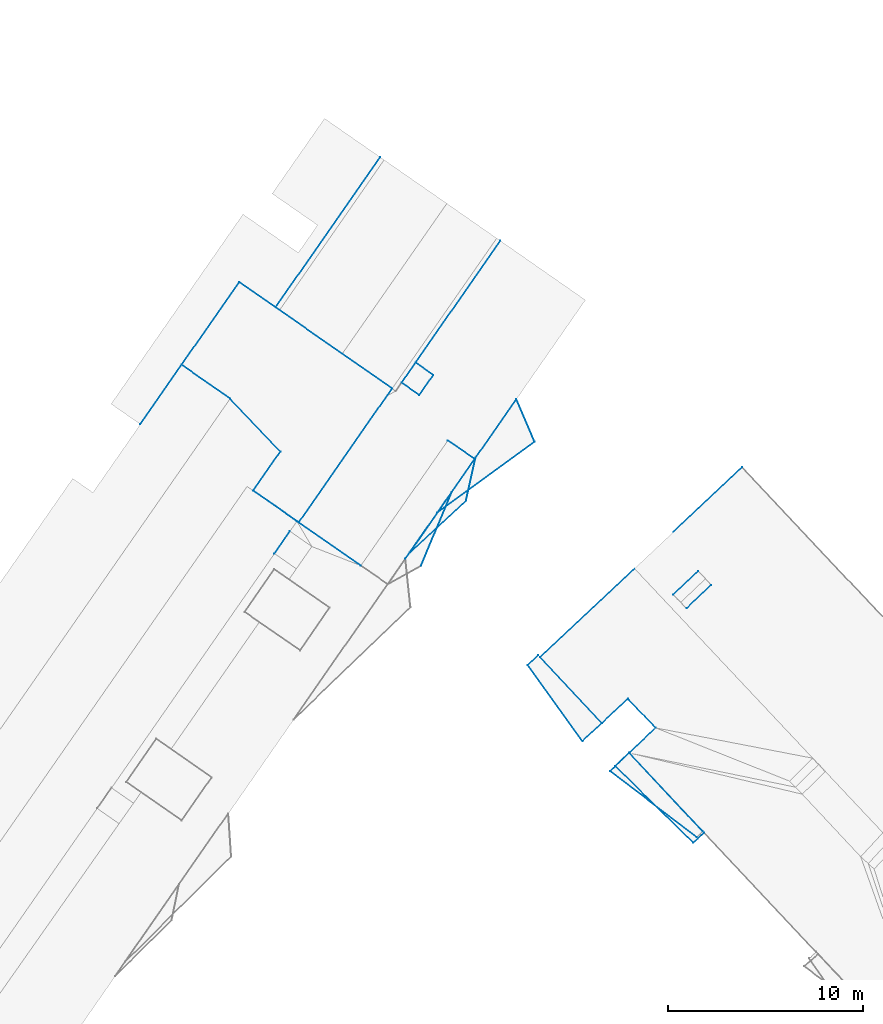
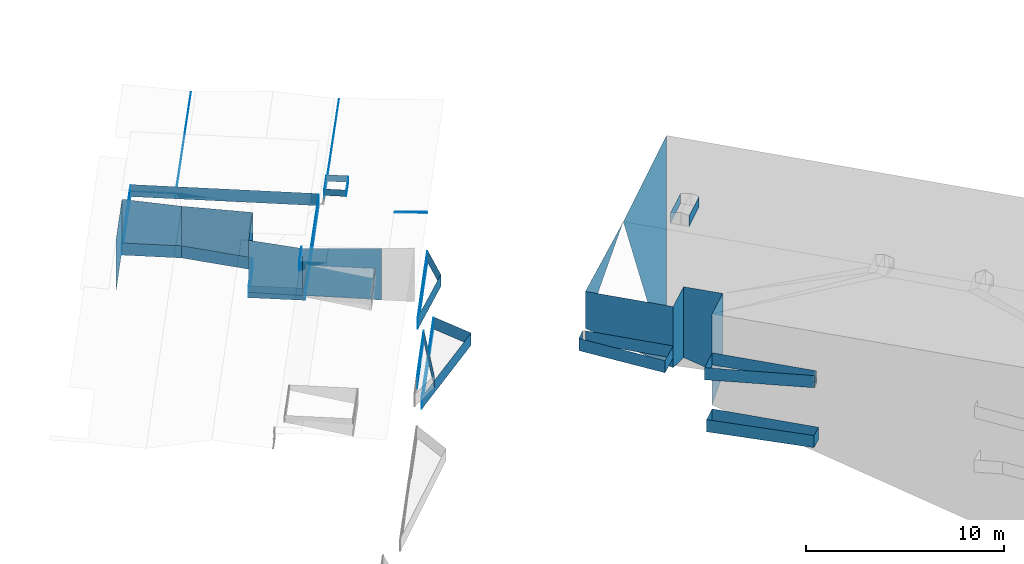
# Not in any storey, part 52 of 136: 80 walls.
"""IFC2X3 building model written with IfcOpenShell, lengths in metres."""

from ifc_helpers import new_model, entity, si_unit, converted_unit, frame, origin, place, context, subcontext, project, spatial, face_set, surface_model, element, save


model = new_model("IFC2X3")

# Units and contexts
model_context = context("Model", 3, precision=1e-05, world=origin())
body_context = subcontext(model_context, "Body", "Model", "MODEL_VIEW")
ifc_project = project(units=[converted_unit("PLANEANGLEUNIT", "DEGREE", entity("IfcRatioMeasure", 0.0174532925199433), si_unit("PLANEANGLEUNIT", "RADIAN"), dimensions=[0, 0, 0, 0, 0, 0, 0]), si_unit("AREAUNIT", "SQUARE_METRE"), si_unit("LENGTHUNIT", "METRE")], contexts=[model_context])

# Site, building
site_placement = place(None, origin())
site = spatial("IfcSite", under=ifc_project, at=site_placement, Name="_site", CompositionType="ELEMENT")
building_1_placement = place(site_placement, origin())
building_1 = spatial("IfcBuilding", under=site, at=building_1_placement, Name="_building", CompositionType="ELEMENT")

# Walls
wall_1_placement = place(building_1_placement, origin())
element("IfcWall", 1, at=wall_1_placement, inside=building_1, Name="Wall", context=body_context, shape_type="SurfaceModel", body=[
    surface_model("IfcFaceBasedSurfaceModel", [(-4.44, 132.12, 47.63), (-1.28, 128.75, 47.63), (-1.28, 128.75, 48.38), (-4.44, 132.12, 48.38)], [face_set([[[0, 1, 2, 3]]])]),
])
wall_2_placement = place(building_1_placement, origin())
element("IfcWall", 2, at=wall_2_placement, inside=building_1, Name="Wall", context=body_context, shape_type="SurfaceModel", body=[
    surface_model("IfcFaceBasedSurfaceModel", [(-5.07, 131.7, 47.63), (-4.54, 132.22, 47.63), (-4.54, 132.22, 48.38), (-5.07, 131.7, 48.38)], [face_set([[[0, 1, 2, 3]]])]),
])
wall_3_placement = place(building_1_placement, origin())
element("IfcWall", 3, at=wall_3_placement, inside=building_1, Name="Wall", context=body_context, shape_type="SurfaceModel", body=[
    surface_model("IfcFaceBasedSurfaceModel", [(-2.28, 127.83, 47.63), (-5.07, 131.7, 47.63), (-5.07, 131.7, 48.38), (-2.28, 127.83, 48.38)], [face_set([[[0, 1, 2, 3]]])]),
])
wall_4_placement = place(building_1_placement, origin())
element("IfcWall", 4, at=wall_4_placement, inside=building_1, Name="Wall", context=body_context, shape_type="SurfaceModel", body=[
    surface_model("IfcFaceBasedSurfaceModel", [(-1.28, 128.75, 47.63), (-2.28, 127.83, 47.63), (-2.28, 127.83, 48.38), (-1.28, 128.75, 48.38)], [face_set([[[0, 1, 2, 3]]])]),
])
wall_5_placement = place(building_1_placement, origin())
element("IfcWall", 5, at=wall_5_placement, inside=building_1, Name="Wall", context=body_context, shape_type="SurfaceModel", body=[
    surface_model("IfcFaceBasedSurfaceModel", [(-5.07, 131.7, 47.63), (-4.54, 132.22, 47.63), (-4.54, 132.22, 48.38), (-5.07, 131.7, 48.38)], [face_set([[[0, 1, 2, 3]]])]),
])
wall_6_placement = place(building_1_placement, origin())
element("IfcWall", 6, at=wall_6_placement, inside=building_1, Name="Wall", context=body_context, shape_type="SurfaceModel", body=[
    surface_model("IfcFaceBasedSurfaceModel", [(-2.28, 127.83, 47.63), (-5.07, 131.7, 47.63), (-5.07, 131.7, 48.38), (-2.28, 127.83, 48.38)], [face_set([[[0, 1, 2, 3]]])]),
])
wall_7_placement = place(building_1_placement, origin())
element("IfcWall", 7, at=wall_7_placement, inside=building_1, Name="Wall", context=body_context, shape_type="SurfaceModel", body=[
    surface_model("IfcFaceBasedSurfaceModel", [(4.31, 135.811, 51.34), (3.04, 134.61, 51.34), (3.04, 134.61, 50.664), (4.31, 135.811, 50.714)], [face_set([[[0, 1, 2, 3]]])]),
])
wall_8_placement = place(building_1_placement, origin())
element("IfcWall", 8, at=wall_8_placement, inside=building_1, Name="Wall", context=body_context, shape_type="SurfaceModel", body=[
    surface_model("IfcFaceBasedSurfaceModel", [(-0.87, 126.28, 47.65), (0.11, 127.22, 47.65), (0.11, 127.22, 48.4), (-0.87, 126.28, 48.4)], [face_set([[[0, 1, 2, 3]]])]),
])
for number, where, name in (
    (9, (0.0, 0.0, 0.0), "Wall"),
    (10, (0.0, 0.0, 0.0), "Wall"),
):
    element("IfcWall", number, at=place(building_1_placement, frame(where)), inside=building_1, Name=name, context=body_context, shape_type="SurfaceModel", body=[
        surface_model("IfcFaceBasedSurfaceModel", [(3.57, 122.9, 47.65), (-0.87, 126.28, 47.65), (-0.87, 126.28, 48.4), (3.57, 122.9, 48.4)], [face_set([[[0, 1, 2, 3]]])]),
    ])
wall_9_placement = place(building_1_placement, origin())
element("IfcWall", 11, at=wall_9_placement, inside=building_1, Name="Wall", context=body_context, shape_type="SurfaceModel", body=[
    surface_model("IfcFaceBasedSurfaceModel", [(0.11, 127.22, 47.65), (3.87, 123.22, 47.65), (3.87, 123.22, 48.4), (0.11, 127.22, 48.4)], [face_set([[[0, 1, 2, 3]]])]),
])
wall_10_placement = place(building_1_placement, origin())
element("IfcWall", 12, at=wall_10_placement, inside=building_1, Name="Wall", context=body_context, shape_type="SurfaceModel", body=[
    surface_model("IfcFaceBasedSurfaceModel", [(-0.87, 126.28, 47.65), (0.11, 127.22, 47.65), (0.11, 127.22, 48.4), (-0.87, 126.28, 48.4)], [face_set([[[0, 1, 2, 3]]])]),
])
wall_11_placement = place(building_1_placement, origin())
element("IfcWall", 13, at=wall_11_placement, inside=building_1, Name="Wall", context=body_context, shape_type="SurfaceModel", body=[
    surface_model("IfcFaceBasedSurfaceModel", [(0.11, 127.22, 44.2), (3.95, 123.13, 44.2), (3.95, 123.13, 44.95), (0.11, 127.22, 44.95)], [face_set([[[0, 1, 2, 3]]])]),
])
wall_12_placement = place(building_1_placement, origin())
element("IfcWall", 14, at=wall_12_placement, inside=building_1, Name="Wall", context=body_context, shape_type="SurfaceModel", body=[
    surface_model("IfcFaceBasedSurfaceModel", [(0.05, 130.0, 50.8), (-1.28, 128.75, 50.8), (-1.28, 128.75, 47.031), (0.05, 130.0, 46.443)], [face_set([[[0, 1, 2, 3]]])]),
])
wall_13_placement = place(building_1_placement, origin())
element("IfcWall", 15, at=wall_13_placement, inside=building_1, Name="Wall", context=body_context, shape_type="SurfaceModel", body=[
    surface_model("IfcFaceBasedSurfaceModel", [(-4.44, 132.12, 50.8), (0.38, 136.65, 50.65), (-4.44, 132.12, 48.519)], [face_set([[[0, 1, 2]]])]),
])
wall_14_placement = place(building_1_placement, origin())
element("IfcWall", 16, at=wall_14_placement, inside=building_1, Name="Wall", context=body_context, shape_type="SurfaceModel", body=[
    surface_model("IfcFaceBasedSurfaceModel", [(-1.28, 128.75, 50.8), (-4.44, 132.12, 50.8), (-4.44, 132.12, 48.519), (-1.28, 128.75, 47.031)], [face_set([[[0, 1, 2, 3]]])]),
])
wall_15_placement = place(building_1_placement, origin())
element("IfcWall", 17, at=wall_15_placement, inside=building_1, Name="Wall", context=body_context, shape_type="SurfaceModel", body=[
    surface_model("IfcFaceBasedSurfaceModel", [(0.11, 127.22, 50.8), (1.47, 128.5, 50.8), (1.47, 128.5, 45.778), (0.11, 127.22, 45.176)], [face_set([[[0, 1, 2, 3]]])]),
])
wall_16_placement = place(building_1_placement, origin())
element("IfcWall", 18, at=wall_16_placement, inside=building_1, Name="Wall", context=body_context, shape_type="SurfaceModel", body=[
    surface_model("IfcFaceBasedSurfaceModel", [(1.47, 128.5, 50.8), (0.05, 130.0, 50.8), (0.05, 130.0, 46.443), (1.47, 128.5, 45.778)], [face_set([[[0, 1, 2, 3]]])]),
])
wall_17_placement = place(building_1_placement, origin())
element("IfcWall", 19, at=wall_17_placement, inside=building_1, Name="Wall", context=body_context, shape_type="SurfaceModel", body=[
    surface_model("IfcFaceBasedSurfaceModel", [(0.38, 136.65, 50.65), (5.89, 141.84, 50.89), (5.89, 141.84, 36.789)], [face_set([[[0, 1, 2]]])]),
])
wall_18_placement = place(building_1_placement, origin())
element("IfcWall", 20, at=wall_18_placement, inside=building_1, Name="Wall", context=body_context, shape_type="SurfaceModel", body=[
    surface_model("IfcFaceBasedSurfaceModel", [(-1.28, 128.75, 47.63), (-2.28, 127.83, 47.63), (-2.28, 127.83, 48.38), (-1.28, 128.75, 48.38)], [face_set([[[0, 1, 2, 3]]])]),
])
wall_19_placement = place(building_1_placement, origin())
element("IfcWall", 21, at=wall_19_placement, inside=building_1, Name="Wall", context=body_context, shape_type="SurfaceModel", body=[
    surface_model("IfcFaceBasedSurfaceModel", [(-4.44, 132.12, 47.63), (-1.28, 128.75, 47.63), (-1.28, 128.75, 48.38), (-4.44, 132.12, 48.38)], [face_set([[[0, 1, 2, 3]]])]),
])
wall_20_placement = place(building_1_placement, origin())
element("IfcWall", 22, at=wall_20_placement, inside=building_1, Name="Wall", context=body_context, shape_type="SurfaceModel", body=[
    surface_model("IfcFaceBasedSurfaceModel", [(2.37, 135.32, 51.32), (3.64, 136.521, 51.32), (3.64, 136.521, 50.715), (2.37, 135.32, 50.664)], [face_set([[[0, 1, 2, 3]]])]),
])
wall_21_placement = place(building_1_placement, origin())
element("IfcWall", 23, at=wall_21_placement, inside=building_1, Name="Wall", context=body_context, shape_type="SurfaceModel", body=[
    surface_model("IfcFaceBasedSurfaceModel", [(-0.61, 126.54, 44.2), (0.11, 127.22, 44.2), (0.11, 127.22, 44.95), (-0.61, 126.54, 44.95)], [face_set([[[0, 1, 2, 3]]])]),
])
wall_22_placement = place(building_1_placement, origin())
element("IfcWall", 24, at=wall_22_placement, inside=building_1, Name="Wall", context=body_context, shape_type="SurfaceModel", body=[
    surface_model("IfcFaceBasedSurfaceModel", [(3.38, 122.62, 44.2), (-0.61, 126.54, 44.2), (-0.61, 126.54, 44.95), (3.38, 122.62, 44.95)], [face_set([[[0, 1, 2, 3]]])]),
])
wall_23_placement = place(building_1_placement, origin())
element("IfcWall", 25, at=wall_23_placement, inside=building_1, Name="Wall", context=body_context, shape_type="SurfaceModel", body=[
    surface_model("IfcFaceBasedSurfaceModel", [(3.95, 123.13, 44.2), (3.38, 122.62, 44.2), (3.38, 122.62, 44.95), (3.95, 123.13, 44.95)], [face_set([[[0, 1, 2, 3]]])]),
])
wall_24_placement = place(building_1_placement, origin())
element("IfcWall", 26, at=wall_24_placement, inside=building_1, Name="Wall", context=body_context, shape_type="SurfaceModel", body=[
    surface_model("IfcFaceBasedSurfaceModel", [(0.11, 127.22, 44.2), (3.95, 123.13, 44.2), (3.95, 123.13, 44.95), (0.11, 127.22, 44.95)], [face_set([[[0, 1, 2, 3]]])]),
])
wall_25_placement = place(building_1_placement, origin())
element("IfcWall", 27, at=wall_25_placement, inside=building_1, Name="Wall", context=body_context, shape_type="SurfaceModel", body=[
    surface_model("IfcFaceBasedSurfaceModel", [(-0.61, 126.54, 44.2), (0.11, 127.22, 44.2), (0.11, 127.22, 44.95), (-0.61, 126.54, 44.95)], [face_set([[[0, 1, 2, 3]]])]),
])
wall_26_placement = place(building_1_placement, origin())
element("IfcWall", 28, at=wall_26_placement, inside=building_1, Name="Wall", context=body_context, shape_type="SurfaceModel", body=[
    surface_model("IfcFaceBasedSurfaceModel", [(3.38, 122.62, 44.2), (-0.61, 126.54, 44.2), (-0.61, 126.54, 44.95), (3.38, 122.62, 44.95)], [face_set([[[0, 1, 2, 3]]])]),
])
wall_27_placement = place(building_1_placement, origin())
element("IfcWall", 29, at=wall_27_placement, inside=building_1, Name="Wall", context=body_context, shape_type="SurfaceModel", body=[
    surface_model("IfcFaceBasedSurfaceModel", [(3.95, 123.13, 44.2), (3.38, 122.62, 44.2), (3.38, 122.62, 44.95), (3.95, 123.13, 44.95)], [face_set([[[0, 1, 2, 3]]])]),
])
wall_28_placement = place(building_1_placement, origin())
element("IfcWall", 30, at=wall_28_placement, inside=building_1, Name="Wall", context=body_context, shape_type="SurfaceModel", body=[
    surface_model("IfcFaceBasedSurfaceModel", [(0.11, 127.22, 47.65), (3.87, 123.22, 47.65), (3.87, 123.22, 48.4), (0.11, 127.22, 48.4)], [face_set([[[0, 1, 2, 3]]])]),
])

# Building
building_2_placement = place(site_placement, origin())
building_2 = spatial("IfcBuilding", under=site, at=building_2_placement, Name="_building", CompositionType="ELEMENT")

# Walls
wall_29_placement = place(building_2_placement, origin())
element("IfcWall", 31, at=wall_29_placement, inside=building_2, Name="Wall", context=body_context, shape_type="SurfaceModel", body=[
    surface_model("IfcFaceBasedSurfaceModel", [(-8.97, 140.561, 44.17), (-10.54, 136.79, 44.17), (-10.54, 136.79, 44.92), (-8.97, 140.561, 44.92)], [face_set([[[0, 1, 2, 3]]])]),
])
wall_30_placement = place(building_2_placement, origin())
element("IfcWall", 32, at=wall_30_placement, inside=building_2, Name="Wall", context=body_context, shape_type="SurfaceModel", body=[
    surface_model("IfcFaceBasedSurfaceModel", [(-11.34, 137.15, 44.17), (-8.97, 140.561, 44.17), (-8.97, 140.561, 44.92), (-11.34, 137.15, 44.92)], [face_set([[[0, 1, 2, 3]]])]),
])
wall_31_placement = place(building_2_placement, origin())
element("IfcWall", 33, at=wall_31_placement, inside=building_2, Name="Wall", context=body_context, shape_type="SurfaceModel", body=[
    surface_model("IfcFaceBasedSurfaceModel", [(-10.82, 147.18, 51.08), (-9.91, 146.55, 51.08), (-9.91, 146.55, 50.676), (-10.82, 147.18, 50.676)], [face_set([[[0, 1, 2, 3]]])]),
])
wall_32_placement = place(building_2_placement, origin())
element("IfcWall", 34, at=wall_32_placement, inside=building_2, Name="Wall", context=body_context, shape_type="SurfaceModel", body=[
    surface_model("IfcFaceBasedSurfaceModel", [(-16.79, 139.01, 50.39), (-19.13, 140.63, 50.39), (-19.13, 140.63, 51.14), (-16.79, 139.01, 51.14)], [face_set([[[0, 1, 2, 3]]])]),
])
wall_33_placement = place(building_2_placement, origin())
element("IfcWall", 35, at=wall_33_placement, inside=building_2, Name="Wall", context=body_context, shape_type="SurfaceModel", body=[
    surface_model("IfcFaceBasedSurfaceModel", [(-20.31, 145.34, 50.39), (-22.79, 147.07, 50.39), (-22.79, 147.07, 51.14), (-20.31, 145.34, 51.14)], [face_set([[[0, 1, 2, 3]]])]),
])
wall_34_placement = place(building_2_placement, origin())
element("IfcWall", 36, at=wall_34_placement, inside=building_2, Name="Wall", context=body_context, shape_type="SurfaceModel", body=[
    surface_model("IfcFaceBasedSurfaceModel", [(-19.13, 140.63, 50.39), (-17.73, 142.64, 50.39), (-17.73, 142.64, 51.14), (-19.13, 140.63, 51.14)], [face_set([[[0, 1, 2, 3]]])]),
])
wall_35_placement = place(building_2_placement, origin())
element("IfcWall", 37, at=wall_35_placement, inside=building_2, Name="Wall", context=body_context, shape_type="SurfaceModel", body=[
    surface_model("IfcFaceBasedSurfaceModel", [(-16.79, 139.01, 50.39), (-19.13, 140.63, 50.39), (-19.13, 140.63, 51.14), (-16.79, 139.01, 51.14)], [face_set([[[0, 1, 2, 3]]])]),
])
wall_36_placement = place(building_2_placement, origin())
element("IfcWall", 38, at=wall_36_placement, inside=building_2, Name="Wall", context=body_context, shape_type="SurfaceModel", body=[
    surface_model("IfcFaceBasedSurfaceModel", [(-12.02, 145.86, 50.39), (-16.79, 139.01, 50.39), (-16.79, 139.01, 51.14), (-12.02, 145.86, 51.14)], [face_set([[[0, 1, 2, 3]]])]),
])
wall_37_placement = place(building_2_placement, origin())
element("IfcWall", 39, at=wall_37_placement, inside=building_2, Name="Wall", context=body_context, shape_type="SurfaceModel", body=[
    surface_model("IfcFaceBasedSurfaceModel", [(-22.79, 147.07, 50.39), (-19.84, 151.3, 50.39), (-19.84, 151.3, 51.14), (-22.79, 147.07, 51.14)], [face_set([[[0, 1, 2, 3]]])]),
])
wall_38_placement = place(building_2_placement, origin())
element("IfcWall", 40, at=wall_38_placement, inside=building_2, Name="Wall", context=body_context, shape_type="SurfaceModel", body=[
    surface_model("IfcFaceBasedSurfaceModel", [(-20.31, 145.34, 50.39), (-22.79, 147.07, 50.39), (-22.79, 147.07, 51.14), (-20.31, 145.34, 51.14)], [face_set([[[0, 1, 2, 3]]])]),
])
wall_39_placement = place(building_2_placement, origin())
element("IfcWall", 41, at=wall_39_placement, inside=building_2, Name="Wall", context=body_context, shape_type="SurfaceModel", body=[
    surface_model("IfcFaceBasedSurfaceModel", [(-10.63, 145.521, 51.08), (-11.533, 146.152, 51.08), (-11.533, 146.152, 50.676), (-10.63, 145.521, 50.676)], [face_set([[[0, 1, 2, 3]]])]),
])
wall_40_placement = place(building_2_placement, origin())
element("IfcWall", 42, at=wall_40_placement, inside=building_2, Name="Wall", context=body_context, shape_type="SurfaceModel", body=[
    surface_model("IfcFaceBasedSurfaceModel", [(-7.75, 142.311, 47.57), (-8.24, 140.12, 47.57), (-8.24, 140.12, 48.32), (-7.75, 142.311, 48.32)], [face_set([[[0, 1, 2, 3]]])]),
])
wall_41_placement = place(building_2_placement, origin())
element("IfcWall", 43, at=wall_41_placement, inside=building_2, Name="Wall", context=body_context, shape_type="SurfaceModel", body=[
    surface_model("IfcFaceBasedSurfaceModel", [(-22.79, 147.07, 50.39), (-19.84, 151.3, 50.39), (-19.84, 151.3, 51.14), (-22.79, 147.07, 51.14)], [face_set([[[0, 1, 2, 3]]])]),
])
wall_42_placement = place(building_2_placement, origin())
element("IfcWall", 44, at=wall_42_placement, inside=building_2, Name="Wall", context=body_context, shape_type="SurfaceModel", body=[
    surface_model("IfcFaceBasedSurfaceModel", [(-19.84, 151.3, 50.39), (-12.02, 145.86, 50.39), (-12.02, 145.86, 51.14), (-19.84, 151.3, 51.14)], [face_set([[[0, 1, 2, 3]]])]),
])
wall_43_placement = place(building_2_placement, origin())
element("IfcWall", 45, at=wall_43_placement, inside=building_2, Name="Wall", context=body_context, shape_type="SurfaceModel", body=[
    surface_model("IfcFaceBasedSurfaceModel", [(-11.12, 137.45, 47.57), (-8.97, 140.561, 47.57), (-8.97, 140.561, 48.32), (-11.12, 137.45, 48.32)], [face_set([[[0, 1, 2, 3]]])]),
])
wall_44_placement = place(building_2_placement, origin())
element("IfcWall", 46, at=wall_44_placement, inside=building_2, Name="Wall", context=body_context, shape_type="SurfaceModel", body=[
    surface_model("IfcFaceBasedSurfaceModel", [(-8.24, 140.12, 47.57), (-11.12, 137.45, 47.57), (-11.12, 137.45, 48.32), (-8.24, 140.12, 48.32)], [face_set([[[0, 1, 2, 3]]])]),
])
wall_45_placement = place(building_2_placement, origin())
element("IfcWall", 47, at=wall_45_placement, inside=building_2, Name="Wall", context=body_context, shape_type="SurfaceModel", body=[
    surface_model("IfcFaceBasedSurfaceModel", [(-20.31, 145.34, 53.58), (-17.73, 142.64, 53.93), (-17.73, 142.64, 50.72), (-20.31, 145.34, 50.72)], [face_set([[[0, 1, 2, 3]]])]),
])
wall_46_placement = place(building_2_placement, origin())
element("IfcWall", 48, at=wall_46_placement, inside=building_2, Name="Wall", context=body_context, shape_type="SurfaceModel", body=[
    surface_model("IfcFaceBasedSurfaceModel", [(-24.9, 144.03, 53.83), (-22.79, 147.07, 53.83), (-22.79, 147.07, 50.64), (-24.9, 144.03, 50.64)], [face_set([[[0, 1, 2, 3]]])]),
])
wall_47_placement = place(building_2_placement, origin())
element("IfcWall", 49, at=wall_47_placement, inside=building_2, Name="Wall", context=body_context, shape_type="SurfaceModel", body=[
    surface_model("IfcFaceBasedSurfaceModel", [(-22.79, 147.07, 53.83), (-20.31, 145.34, 53.58), (-20.31, 145.34, 50.72), (-22.79, 147.07, 50.64)], [face_set([[[0, 1, 2, 3]]])]),
])
wall_48_placement = place(building_2_placement, origin())
element("IfcWall", 50, at=wall_48_placement, inside=building_2, Name="Wall", context=body_context, shape_type="SurfaceModel", body=[
    surface_model("IfcFaceBasedSurfaceModel", [(-17.73, 142.64, 53.93), (-19.13, 140.63, 53.93), (-19.13, 140.63, 50.72), (-17.73, 142.64, 50.72)], [face_set([[[0, 1, 2, 3]]])]),
])
wall_49_placement = place(building_2_placement, origin())
element("IfcWall", 51, at=wall_49_placement, inside=building_2, Name="Wall", context=body_context, shape_type="SurfaceModel", body=[
    surface_model("IfcFaceBasedSurfaceModel", [(-19.13, 140.63, 53.93), (-16.89, 139.07, 53.58), (-16.89, 139.07, 50.687), (-19.13, 140.63, 50.72)], [face_set([[[0, 1, 2, 3]]])]),
])
wall_50_placement = place(building_2_placement, origin())
element("IfcWall", 52, at=wall_50_placement, inside=building_2, Name="Wall", context=body_context, shape_type="SurfaceModel", body=[
    surface_model("IfcFaceBasedSurfaceModel", [(-8.24, 140.12, 47.57), (-11.12, 137.45, 47.57), (-11.12, 137.45, 48.32), (-8.24, 140.12, 48.32)], [face_set([[[0, 1, 2, 3]]])]),
])
wall_51_placement = place(building_2_placement, origin())
element("IfcWall", 53, at=wall_51_placement, inside=building_2, Name="Wall", context=body_context, shape_type="SurfaceModel", body=[
    surface_model("IfcFaceBasedSurfaceModel", [(-7.75, 142.311, 47.57), (-8.24, 140.12, 47.57), (-8.24, 140.12, 48.32), (-7.75, 142.311, 48.32)], [face_set([[[0, 1, 2, 3]]])]),
])
wall_52_placement = place(building_2_placement, origin())
element("IfcWall", 54, at=wall_52_placement, inside=building_2, Name="Wall", context=body_context, shape_type="SurfaceModel", body=[
    surface_model("IfcFaceBasedSurfaceModel", [(-8.97, 140.561, 47.57), (-7.75, 142.311, 47.57), (-7.75, 142.311, 48.32), (-8.97, 140.561, 48.32)], [face_set([[[0, 1, 2, 3]]])]),
])
wall_53_placement = place(building_2_placement, origin())
element("IfcWall", 55, at=wall_53_placement, inside=building_2, Name="Wall", context=body_context, shape_type="SurfaceModel", body=[
    surface_model("IfcFaceBasedSurfaceModel", [(-17.73, 142.64, 50.39), (-20.31, 145.34, 50.39), (-20.31, 145.34, 51.14), (-17.73, 142.64, 51.14)], [face_set([[[0, 1, 2, 3]]])]),
])
wall_54_placement = place(building_2_placement, origin())
element("IfcWall", 56, at=wall_54_placement, inside=building_2, Name="Wall", context=body_context, shape_type="SurfaceModel", body=[
    surface_model("IfcFaceBasedSurfaceModel", [(-7.79, 142.25, 50.72), (-9.17, 143.2, 50.64), (-9.17, 143.2, 50.59), (-7.79, 142.25, 50.64)], [face_set([[[0, 1, 2, 3]]])]),
])
wall_55_placement = place(building_2_placement, origin())
element("IfcWall", 57, at=wall_55_placement, inside=building_2, Name="Wall", context=body_context, shape_type="SurfaceModel", body=[
    surface_model("IfcFaceBasedSurfaceModel", [(-19.84, 151.3, 50.39), (-12.02, 145.86, 50.39), (-12.02, 145.86, 51.14), (-19.84, 151.3, 51.14)], [face_set([[[0, 1, 2, 3]]])]),
])
wall_56_placement = place(building_2_placement, origin())
element("IfcWall", 58, at=wall_56_placement, inside=building_2, Name="Wall", context=body_context, shape_type="SurfaceModel", body=[
    surface_model("IfcFaceBasedSurfaceModel", [(-9.91, 146.55, 51.08), (-10.63, 145.521, 51.08), (-10.63, 145.521, 50.676), (-9.91, 146.55, 50.676)], [face_set([[[0, 1, 2, 3]]])]),
])
wall_57_placement = place(building_2_placement, origin())
element("IfcWall", 59, at=wall_57_placement, inside=building_2, Name="Wall", context=body_context, shape_type="SurfaceModel", body=[
    surface_model("IfcFaceBasedSurfaceModel", [(-18.039, 137.419, 54.2), (-17.248, 138.56, 54.2), (-17.248, 138.56, 53.58), (-18.039, 137.419, 53.58)], [face_set([[[0, 1, 2, 3]]])]),
])
wall_58_placement = place(building_2_placement, origin())
element("IfcWall", 60, at=wall_58_placement, inside=building_2, Name="Wall", context=body_context, shape_type="SurfaceModel", body=[
    surface_model("IfcFaceBasedSurfaceModel", [(-10.82, 147.18, 50.676), (-6.48, 153.42, 50.47), (-6.48, 153.42, 50.42), (-10.82, 147.18, 50.47)], [face_set([[[0, 1, 2, 3]]])]),
])
wall_59_placement = place(building_2_placement, origin())
element("IfcWall", 61, at=wall_59_placement, inside=building_2, Name="Wall", context=body_context, shape_type="SurfaceModel", body=[
    surface_model("IfcFaceBasedSurfaceModel", [(-7.75, 142.311, 40.91), (-5.66, 145.311, 40.91), (-5.66, 145.311, 41.66), (-7.75, 142.311, 41.66)], [face_set([[[0, 1, 2, 3]]])]),
])
wall_60_placement = place(building_2_placement, origin())
element("IfcWall", 62, at=wall_60_placement, inside=building_2, Name="Wall", context=body_context, shape_type="SurfaceModel", body=[
    surface_model("IfcFaceBasedSurfaceModel", [(-9.7, 139.51, 40.91), (-8.97, 140.561, 40.91), (-8.97, 140.561, 41.66), (-9.7, 139.51, 41.66)], [face_set([[[0, 1, 2, 3]]])]),
])
wall_61_placement = place(building_2_placement, origin())
element("IfcWall", 63, at=wall_61_placement, inside=building_2, Name="Wall", context=body_context, shape_type="SurfaceModel", body=[
    surface_model("IfcFaceBasedSurfaceModel", [(-5.66, 145.311, 40.91), (-4.73, 143.14, 40.91), (-4.73, 143.14, 41.66), (-5.66, 145.311, 41.66)], [face_set([[[0, 1, 2, 3]]])]),
])
wall_62_placement = place(building_2_placement, origin())
element("IfcWall", 64, at=wall_62_placement, inside=building_2, Name="Wall", context=body_context, shape_type="SurfaceModel", body=[
    surface_model("IfcFaceBasedSurfaceModel", [(-7.75, 142.311, 40.91), (-5.66, 145.311, 40.91), (-5.66, 145.311, 41.66), (-7.75, 142.311, 41.66)], [face_set([[[0, 1, 2, 3]]])]),
])
wall_63_placement = place(building_2_placement, origin())
element("IfcWall", 65, at=wall_63_placement, inside=building_2, Name="Wall", context=body_context, shape_type="SurfaceModel", body=[
    surface_model("IfcFaceBasedSurfaceModel", [(-8.97, 140.561, 40.91), (-7.75, 142.311, 40.91), (-7.75, 142.311, 41.66), (-8.97, 140.561, 41.66)], [face_set([[[0, 1, 2, 3]]])]),
])
wall_64_placement = place(building_2_placement, origin())
element("IfcWall", 66, at=wall_64_placement, inside=building_2, Name="Wall", context=body_context, shape_type="SurfaceModel", body=[
    surface_model("IfcFaceBasedSurfaceModel", [(-4.73, 143.14, 40.91), (-9.7, 139.51, 40.91), (-9.7, 139.51, 41.66), (-4.73, 143.14, 41.66)], [face_set([[[0, 1, 2, 3]]])]),
])
wall_65_placement = place(building_2_placement, origin())
element("IfcWall", 67, at=wall_65_placement, inside=building_2, Name="Wall", context=body_context, shape_type="SurfaceModel", body=[
    surface_model("IfcFaceBasedSurfaceModel", [(-5.66, 145.311, 40.91), (-4.73, 143.14, 40.91), (-4.73, 143.14, 41.66), (-5.66, 145.311, 41.66)], [face_set([[[0, 1, 2, 3]]])]),
])
wall_66_placement = place(building_2_placement, origin())
element("IfcWall", 68, at=wall_66_placement, inside=building_2, Name="Wall", context=body_context, shape_type="SurfaceModel", body=[
    surface_model("IfcFaceBasedSurfaceModel", [(-12.02, 145.86, 50.39), (-16.79, 139.01, 50.39), (-16.79, 139.01, 51.14), (-12.02, 145.86, 51.14)], [face_set([[[0, 1, 2, 3]]])]),
])
wall_67_placement = place(building_2_placement, origin())
element("IfcWall", 69, at=wall_67_placement, inside=building_2, Name="Wall", context=body_context, shape_type="SurfaceModel", body=[
    surface_model("IfcFaceBasedSurfaceModel", [(-9.7, 139.51, 40.91), (-8.97, 140.561, 40.91), (-8.97, 140.561, 41.66), (-9.7, 139.51, 41.66)], [face_set([[[0, 1, 2, 3]]])]),
])
wall_68_placement = place(building_2_placement, origin())
element("IfcWall", 70, at=wall_68_placement, inside=building_2, Name="Wall", context=body_context, shape_type="SurfaceModel", body=[
    surface_model("IfcFaceBasedSurfaceModel", [(-17.73, 142.64, 50.39), (-20.31, 145.34, 50.39), (-20.31, 145.34, 51.14), (-17.73, 142.64, 51.14)], [face_set([[[0, 1, 2, 3]]])]),
])
wall_69_placement = place(building_2_placement, origin())
element("IfcWall", 71, at=wall_69_placement, inside=building_2, Name="Wall", context=body_context, shape_type="SurfaceModel", body=[
    surface_model("IfcFaceBasedSurfaceModel", [(-19.13, 140.63, 50.39), (-17.73, 142.64, 50.39), (-17.73, 142.64, 51.14), (-19.13, 140.63, 51.14)], [face_set([[[0, 1, 2, 3]]])]),
])
wall_70_placement = place(building_2_placement, origin())
element("IfcWall", 72, at=wall_70_placement, inside=building_2, Name="Wall", context=body_context, shape_type="SurfaceModel", body=[
    surface_model("IfcFaceBasedSurfaceModel", [(-4.73, 143.14, 40.91), (-9.7, 139.51, 40.91), (-9.7, 139.51, 41.66), (-4.73, 143.14, 41.66)], [face_set([[[0, 1, 2, 3]]])]),
])
wall_71_placement = place(building_2_placement, origin())
element("IfcWall", 73, at=wall_71_placement, inside=building_2, Name="Wall", context=body_context, shape_type="SurfaceModel", body=[
    surface_model("IfcFaceBasedSurfaceModel", [(-16.89, 139.07, 53.58), (-13.62, 136.8, 53.826), (-13.62, 136.8, 50.64), (-16.89, 139.07, 50.687)], [face_set([[[0, 1, 2, 3]]])]),
])
wall_72_placement = place(building_2_placement, origin())
element("IfcWall", 74, at=wall_72_placement, inside=building_2, Name="Wall", context=body_context, shape_type="SurfaceModel", body=[
    surface_model("IfcFaceBasedSurfaceModel", [(-8.97, 140.561, 40.91), (-7.75, 142.311, 40.91), (-7.75, 142.311, 41.66), (-8.97, 140.561, 41.66)], [face_set([[[0, 1, 2, 3]]])]),
])
wall_73_placement = place(building_2_placement, origin())
element("IfcWall", 75, at=wall_73_placement, inside=building_2, Name="Wall", context=body_context, shape_type="SurfaceModel", body=[
    surface_model("IfcFaceBasedSurfaceModel", [(-11.533, 146.152, 51.08), (-10.82, 147.18, 51.08), (-10.82, 147.18, 50.47), (-11.533, 146.152, 50.47)], [face_set([[[0, 1, 2, 3]]])]),
])
wall_74_placement = place(building_2_placement, origin())
element("IfcWall", 76, at=wall_74_placement, inside=building_2, Name="Wall", context=body_context, shape_type="SurfaceModel", body=[
    surface_model("IfcFaceBasedSurfaceModel", [(-8.97, 140.561, 44.17), (-10.54, 136.79, 44.17), (-10.54, 136.79, 44.92), (-8.97, 140.561, 44.92)], [face_set([[[0, 1, 2, 3]]])]),
])
wall_75_placement = place(building_2_placement, origin())
element("IfcWall", 77, at=wall_75_placement, inside=building_2, Name="Wall", context=body_context, shape_type="SurfaceModel", body=[
    surface_model("IfcFaceBasedSurfaceModel", [(-11.34, 137.15, 44.17), (-8.97, 140.561, 44.17), (-8.97, 140.561, 44.92), (-11.34, 137.15, 44.92)], [face_set([[[0, 1, 2, 3]]])]),
])
wall_76_placement = place(building_2_placement, origin())
element("IfcWall", 78, at=wall_76_placement, inside=building_2, Name="Wall", context=body_context, shape_type="SurfaceModel", body=[
    surface_model("IfcFaceBasedSurfaceModel", [(-12.63, 157.7, 50.47), (-17.98, 150.01, 50.676), (-17.98, 150.01, 50.47), (-12.63, 157.7, 50.42)], [face_set([[[0, 1, 2, 3]]])]),
])
wall_77_placement = place(building_2_placement, origin())
element("IfcWall", 79, at=wall_77_placement, inside=building_2, Name="Wall", context=body_context, shape_type="SurfaceModel", body=[
    surface_model("IfcFaceBasedSurfaceModel", [(-11.12, 137.45, 47.57), (-8.97, 140.561, 47.57), (-8.97, 140.561, 48.32), (-11.12, 137.45, 48.32)], [face_set([[[0, 1, 2, 3]]])]),
])
wall_78_placement = place(building_2_placement, origin())
element("IfcWall", 80, at=wall_78_placement, inside=building_2, Name="Wall", context=body_context, shape_type="SurfaceModel", body=[
    surface_model("IfcFaceBasedSurfaceModel", [(-8.97, 140.561, 47.57), (-7.75, 142.311, 47.57), (-7.75, 142.311, 48.32), (-8.97, 140.561, 48.32)], [face_set([[[0, 1, 2, 3]]])]),
])

save(model, "model.ifc")
